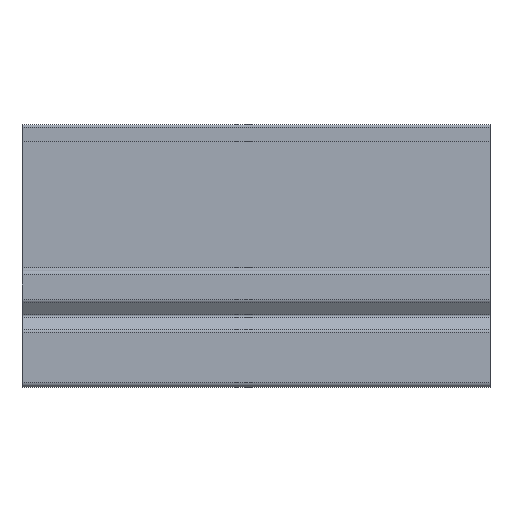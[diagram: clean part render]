
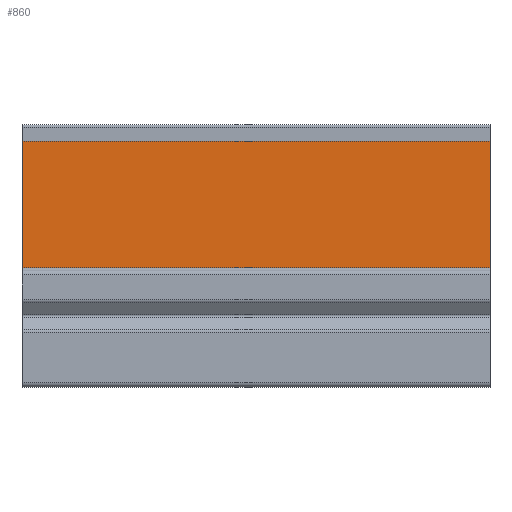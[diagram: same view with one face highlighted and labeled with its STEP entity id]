
A CAD part, front view. The second image highlights one B-rep face of the part: STEP entity #860.
In plain terms, the highlighted planar face has unit normal (0, -1, 0).
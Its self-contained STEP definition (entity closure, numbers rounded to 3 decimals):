
#154 = CARTESIAN_POINT ( 'NONE',  ( 100., -1.5, 25.5 ) ) ;
#162 = FACE_OUTER_BOUND ( 'NONE', #1376, .T. ) ;
#163 = PLANE ( 'NONE',  #301 ) ;
#165 = DIRECTION ( 'NONE',  ( 0., 1., 0. ) ) ;
#166 = DIRECTION ( 'NONE',  ( 0., 0., 1. ) ) ;
#301 = AXIS2_PLACEMENT_3D ( 'NONE', #154, #165, #166 ) ;
#367 = EDGE_CURVE ( 'NONE', #1544, #1429, #1575, .T. ) ;
#368 = EDGE_CURVE ( 'NONE', #1429, #1598, #1601, .T. ) ;
#369 = EDGE_CURVE ( 'NONE', #1703, #1598, #1762, .T. ) ;
#371 = EDGE_CURVE ( 'NONE', #1544, #1703, #1755, .T. ) ;
#570 = CARTESIAN_POINT ( 'NONE',  ( 100., -1.5, 25.5 ) ) ;
#586 = CARTESIAN_POINT ( 'NONE',  ( 100., -1.5, 52.5 ) ) ;
#602 = CARTESIAN_POINT ( 'NONE',  ( 0., -1.5, 25.5 ) ) ;
#615 = CARTESIAN_POINT ( 'NONE',  ( 0., -1.5, 52.5 ) ) ;
#860 = ADVANCED_FACE ( 'NONE', ( #162 ), #163, .F. ) ;
#900 = VECTOR ( 'NONE', #1781, 1000. ) ;
#923 = VECTOR ( 'NONE', #1337, 1000. ) ;
#972 = VECTOR ( 'NONE', #1421, 1000. ) ;
#1037 = ORIENTED_EDGE ( 'NONE', *, *, #369, .T. ) ;
#1038 = ORIENTED_EDGE ( 'NONE', *, *, #368, .F. ) ;
#1039 = ORIENTED_EDGE ( 'NONE', *, *, #371, .T. ) ;
#1041 = ORIENTED_EDGE ( 'NONE', *, *, #367, .F. ) ;
#1261 = VECTOR ( 'NONE', #1573, 1000. ) ;
#1337 = DIRECTION ( 'NONE',  ( -1., 0., 0. ) ) ;
#1376 = EDGE_LOOP ( 'NONE', ( #1037, #1038, #1041, #1039 ) ) ;
#1391 = CARTESIAN_POINT ( 'NONE',  ( 100., -1.5, 25.5 ) ) ;
#1421 = DIRECTION ( 'NONE',  ( -1., 0., 0. ) ) ;
#1422 = CARTESIAN_POINT ( 'NONE',  ( 100., -1.5, 25.5 ) ) ;
#1429 = VERTEX_POINT ( 'NONE', #570 ) ;
#1544 = VERTEX_POINT ( 'NONE', #586 ) ;
#1573 = DIRECTION ( 'NONE',  ( 0., 0., -1. ) ) ;
#1575 = LINE ( 'NONE', #1391, #1261 ) ;
#1598 = VERTEX_POINT ( 'NONE', #602 ) ;
#1601 = LINE ( 'NONE', #1422, #972 ) ;
#1703 = VERTEX_POINT ( 'NONE', #615 ) ;
#1734 = CARTESIAN_POINT ( 'NONE',  ( 100., -1.5, 52.5 ) ) ;
#1755 = LINE ( 'NONE', #1734, #923 ) ;
#1762 = LINE ( 'NONE', #1782, #900 ) ;
#1781 = DIRECTION ( 'NONE',  ( 0., 0., -1. ) ) ;
#1782 = CARTESIAN_POINT ( 'NONE',  ( 0., -1.5, 25.5 ) ) ;
